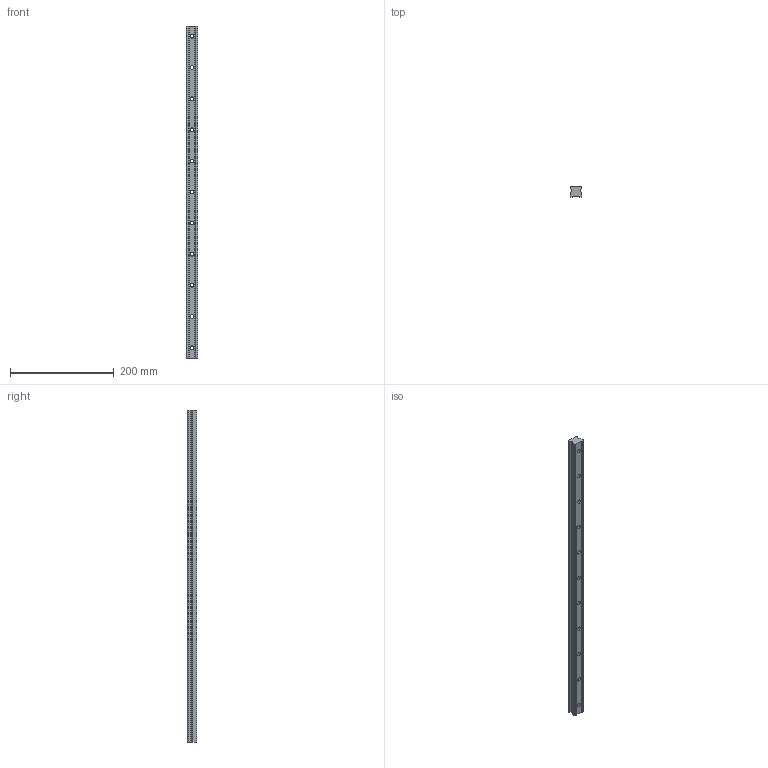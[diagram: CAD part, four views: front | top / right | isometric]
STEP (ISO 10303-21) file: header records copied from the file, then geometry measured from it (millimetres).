
FILE_DESCRIPTION (( 'STEP AP203' ), '1' );
FILE_NAME ('L1016.BL25-0640.step', '2019-06-12T12:05:17', ( '' ), ( '' ), 'SwSTEP 2.0', 'SolidWorks 2017', '' );
FILE_SCHEMA (( 'CONFIG_CONTROL_DESIGN' ));
Length unit declared in the file: millimetre
Products named in the file (1): L1016.BL25-0640
Bounding box: 23 x 19.2 x 640 mm (x, y, z)
Volume: 235535.2 mm3; surface area: 61276.2 mm2
Topology: 1 solids, 1 shells, 81 faces, 204 edges, 136 vertices
Faces by surface type: cylinder 48, plane 33
Entity records: 2595 total; most frequent: DIRECTION 464, CARTESIAN_POINT 422, ORIENTED_EDGE 408, EDGE_CURVE 204, AXIS2_PLACEMENT_3D 178, VERTEX_POINT 136, EDGE_LOOP 114, LINE 108
